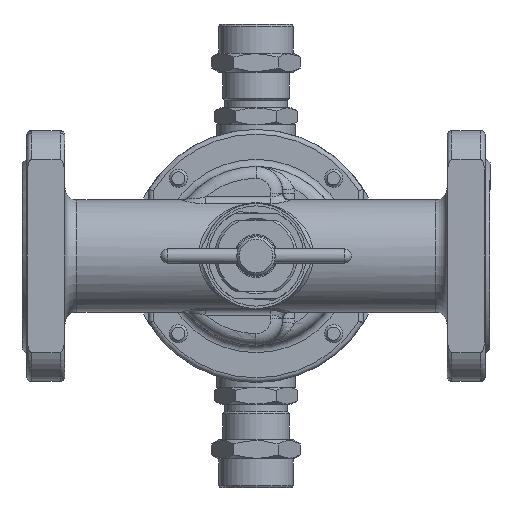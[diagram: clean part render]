
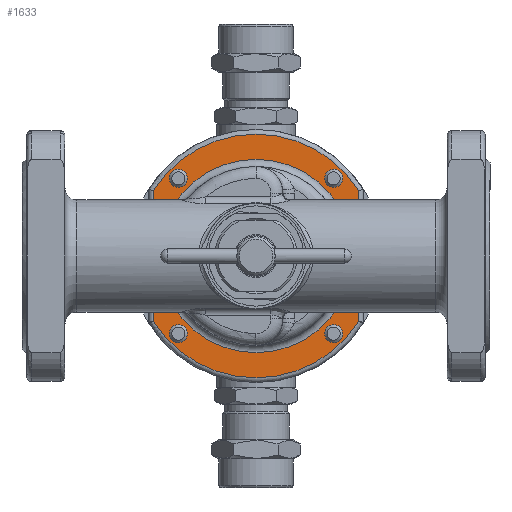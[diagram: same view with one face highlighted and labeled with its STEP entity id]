
A CAD part, front view. The second image highlights one B-rep face of the part: STEP entity #1633.
In plain terms, the highlighted planar face has unit normal (0, -1, 0).
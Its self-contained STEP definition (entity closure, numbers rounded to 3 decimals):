
#1633=ADVANCED_FACE('',(#16576,#16578,#16580,#16582,#16584,#16586),#16588,.F.);
#16576=FACE_BOUND('',#16577,.T.);
#16577=EDGE_LOOP('',(#29296));
#16578=FACE_BOUND('',#16579,.T.);
#16579=EDGE_LOOP('',(#29297));
#16580=FACE_BOUND('',#16581,.T.);
#16581=EDGE_LOOP('',(#29298));
#16582=FACE_BOUND('',#16583,.T.);
#16583=EDGE_LOOP('',(#29299));
#16584=FACE_BOUND('',#16585,.T.);
#16585=EDGE_LOOP('',(#29300));
#16586=FACE_OUTER_BOUND('',#16587,.T.);
#16587=EDGE_LOOP('',(#29301,#29302,#29303,#29304));
#16588=PLANE('',#16589);
#16589=AXIS2_PLACEMENT_3D('',#16590,#16591,#16592);
#16590=CARTESIAN_POINT('',(0.,30.,0.));
#16591=DIRECTION('',(0.,1.,0.));
#16592=DIRECTION('',(-1.,0.,0.));
#29296=ORIENTED_EDGE('',*,*,#36681,.F.);
#29297=ORIENTED_EDGE('',*,*,#36682,.F.);
#29298=ORIENTED_EDGE('',*,*,#36683,.F.);
#29299=ORIENTED_EDGE('',*,*,#36684,.F.);
#29300=ORIENTED_EDGE('',*,*,#36685,.F.);
#29301=ORIENTED_EDGE('',*,*,#36645,.F.);
#29302=ORIENTED_EDGE('',*,*,#36653,.F.);
#29303=ORIENTED_EDGE('',*,*,#36650,.F.);
#29304=ORIENTED_EDGE('',*,*,#36648,.F.);
#36645=EDGE_CURVE('',#44326,#44328,#44329,.T.);
#36648=EDGE_CURVE('',#44328,#44332,#44333,.T.);
#36650=EDGE_CURVE('',#44332,#44335,#44336,.T.);
#36653=EDGE_CURVE('',#44335,#44326,#44339,.T.);
#36681=EDGE_CURVE('',#44373,#44373,#44374,.T.);
#36682=EDGE_CURVE('',#44375,#44375,#44376,.T.);
#36683=EDGE_CURVE('',#44377,#44377,#44378,.T.);
#36684=EDGE_CURVE('',#44379,#44379,#44380,.T.);
#36685=EDGE_CURVE('',#44381,#44381,#44382,.T.);
#44326=VERTEX_POINT('',#68337);
#44328=VERTEX_POINT('',#68352);
#44329=CIRCLE('',#68353,51.);
#44332=VERTEX_POINT('',#68385);
#44333=LINE('',#68386,#68387);
#44335=VERTEX_POINT('',#68408);
#44336=CIRCLE('',#68409,51.);
#44339=LINE('',#68446,#68447);
#44373=VERTEX_POINT('',#68560);
#44374=CIRCLE('',#68561,3.75);
#44375=VERTEX_POINT('',#68565);
#44376=CIRCLE('',#68566,3.75);
#44377=VERTEX_POINT('',#68570);
#44378=CIRCLE('',#68571,40.5);
#44379=VERTEX_POINT('',#68575);
#44380=CIRCLE('',#68576,3.75);
#44381=VERTEX_POINT('',#68580);
#44382=CIRCLE('',#68581,3.75);
#68337=CARTESIAN_POINT('',(43.,30.,-27.423));
#68352=CARTESIAN_POINT('',(-43.,30.,-27.423));
#68353=AXIS2_PLACEMENT_3D('',#68354,#68355,#68356);
#68354=CARTESIAN_POINT('',(0.,30.,0.));
#68355=DIRECTION('',(0.,1.,0.));
#68356=DIRECTION('',(0.843,0.,-0.538));
#68385=CARTESIAN_POINT('',(-43.,30.,27.423));
#68386=CARTESIAN_POINT('',(-43.,30.,-27.423));
#68387=VECTOR('',#68388,1.);
#68388=DIRECTION('',(0.,0.,1.));
#68408=CARTESIAN_POINT('',(43.,30.,27.423));
#68409=AXIS2_PLACEMENT_3D('',#68410,#68411,#68412);
#68410=CARTESIAN_POINT('',(0.,30.,0.));
#68411=DIRECTION('',(0.,1.,0.));
#68412=DIRECTION('',(-0.843,0.,0.538));
#68446=CARTESIAN_POINT('',(43.,30.,27.423));
#68447=VECTOR('',#68448,1.);
#68448=DIRECTION('',(0.,0.,-1.));
#68560=CARTESIAN_POINT('',(-32.527,30.,-36.277));
#68561=AXIS2_PLACEMENT_3D('',#68562,#68563,#68564);
#68562=CARTESIAN_POINT('',(-32.527,30.,-32.527));
#68563=DIRECTION('',(0.,-1.,0.));
#68564=DIRECTION('',(0.,0.,-1.));
#68565=CARTESIAN_POINT('',(32.527,30.,36.277));
#68566=AXIS2_PLACEMENT_3D('',#68567,#68568,#68569);
#68567=CARTESIAN_POINT('',(32.527,30.,32.527));
#68568=DIRECTION('',(0.,-1.,0.));
#68569=DIRECTION('',(0.,0.,1.));
#68570=CARTESIAN_POINT('',(-40.5,30.,0.));
#68571=AXIS2_PLACEMENT_3D('',#68572,#68573,#68574);
#68572=CARTESIAN_POINT('',(0.,30.,0.));
#68573=DIRECTION('',(0.,-1.,0.));
#68574=DIRECTION('',(-1.,0.,0.));
#68575=CARTESIAN_POINT('',(36.277,30.,-32.527));
#68576=AXIS2_PLACEMENT_3D('',#68577,#68578,#68579);
#68577=CARTESIAN_POINT('',(32.527,30.,-32.527));
#68578=DIRECTION('',(0.,-1.,0.));
#68579=DIRECTION('',(1.,0.,0.));
#68580=CARTESIAN_POINT('',(-36.277,30.,32.527));
#68581=AXIS2_PLACEMENT_3D('',#68582,#68583,#68584);
#68582=CARTESIAN_POINT('',(-32.527,30.,32.527));
#68583=DIRECTION('',(0.,-1.,0.));
#68584=DIRECTION('',(-1.,0.,0.));
